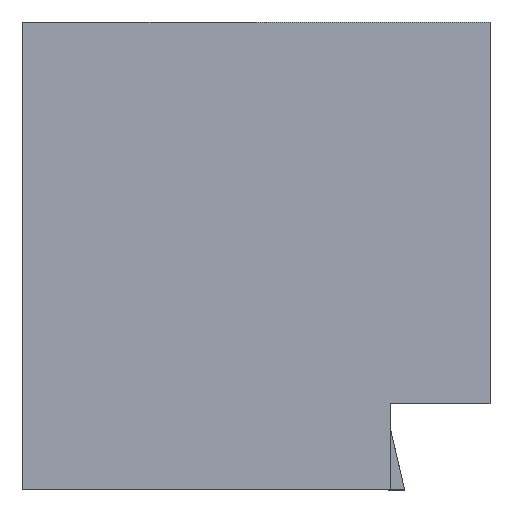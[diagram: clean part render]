
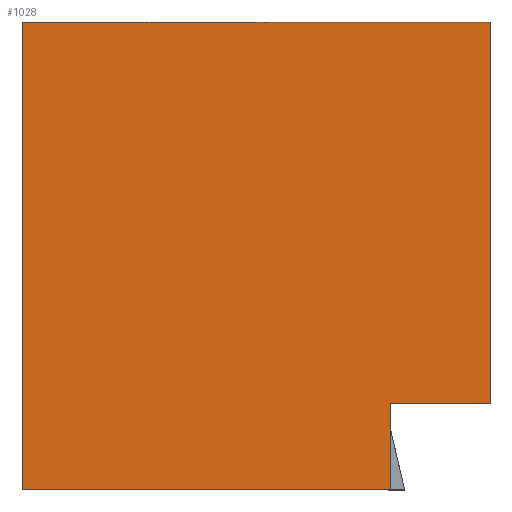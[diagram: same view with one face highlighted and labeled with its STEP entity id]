
A CAD part, front view. The second image highlights one B-rep face of the part: STEP entity #1028.
In plain terms, the highlighted planar face has unit normal (0, -1, 0).
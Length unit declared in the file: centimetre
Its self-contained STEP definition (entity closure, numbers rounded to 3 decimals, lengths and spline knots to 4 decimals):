
#7 = EDGE_CURVE ( 'NONE', #485, #11, #103, .T. ) ;
#11 = VERTEX_POINT ( 'NONE', #539 ) ;
#14 = ORIENTED_EDGE ( 'NONE', *, *, #7, .T. ) ;
#48 = EDGE_CURVE ( 'NONE', #1153, #729, #644, .T. ) ;
#77 = EDGE_CURVE ( 'NONE', #1045, #11, #446, .T. ) ;
#81 = AXIS2_PLACEMENT_3D ( 'NONE', #654, #545, #779 ) ;
#103 = LINE ( 'NONE', #341, #1380 ) ;
#112 = FACE_OUTER_BOUND ( 'NONE', #651, .T. ) ;
#161 = ORIENTED_EDGE ( 'NONE', *, *, #1097, .T. ) ;
#210 = CARTESIAN_POINT ( 'NONE',  ( 1000., 0., 1000. ) ) ;
#231 = CARTESIAN_POINT ( 'NONE',  ( 787.3381, 0., 0. ) ) ;
#245 = DIRECTION ( 'NONE',  ( 0., 0., -1. ) ) ;
#299 = DIRECTION ( 'NONE',  ( -1., 0., 0. ) ) ;
#332 = EDGE_CURVE ( 'NONE', #709, #1153, #1053, .T. ) ;
#334 = DIRECTION ( 'NONE',  ( 1., 0., 0. ) ) ;
#341 = CARTESIAN_POINT ( 'NONE',  ( 0., 0., 0. ) ) ;
#345 = LINE ( 'NONE', #643, #578 ) ;
#432 = ORIENTED_EDGE ( 'NONE', *, *, #332, .F. ) ;
#443 = VECTOR ( 'NONE', #662, 100. ) ;
#446 = LINE ( 'NONE', #231, #443 ) ;
#485 = VERTEX_POINT ( 'NONE', #953 ) ;
#517 = DIRECTION ( 'NONE',  ( 1., 0., 0. ) ) ;
#539 = CARTESIAN_POINT ( 'NONE',  ( 787.3381, 0., 0. ) ) ;
#545 = DIRECTION ( 'NONE',  ( 0., 1., 0. ) ) ;
#557 = CARTESIAN_POINT ( 'NONE',  ( 1000., 0., 184.7516 ) ) ;
#578 = VECTOR ( 'NONE', #245, 100. ) ;
#582 = CARTESIAN_POINT ( 'NONE',  ( 0., 0., 1000. ) ) ;
#630 = CARTESIAN_POINT ( 'NONE',  ( 787.3381, 0., 184.7516 ) ) ;
#643 = CARTESIAN_POINT ( 'NONE',  ( 0., 0., 1000. ) ) ;
#644 = LINE ( 'NONE', #210, #1406 ) ;
#651 = EDGE_LOOP ( 'NONE', ( #14, #932, #1327, #1004, #432, #161 ) ) ;
#654 = CARTESIAN_POINT ( 'NONE',  ( 0., 0., 1000. ) ) ;
#662 = DIRECTION ( 'NONE',  ( 0., 0., -1. ) ) ;
#709 = VERTEX_POINT ( 'NONE', #582 ) ;
#729 = VERTEX_POINT ( 'NONE', #557 ) ;
#772 = CARTESIAN_POINT ( 'NONE',  ( 787.3381, 0., 184.7516 ) ) ;
#779 = DIRECTION ( 'NONE',  ( 0., 0., 1. ) ) ;
#883 = VECTOR ( 'NONE', #517, 100. ) ;
#932 = ORIENTED_EDGE ( 'NONE', *, *, #77, .F. ) ;
#947 = CARTESIAN_POINT ( 'NONE',  ( 0., 0., 1000. ) ) ;
#953 = CARTESIAN_POINT ( 'NONE',  ( 0., 0., 0. ) ) ;
#966 = LINE ( 'NONE', #630, #1206 ) ;
#967 = DIRECTION ( 'NONE',  ( 0., 0., -1. ) ) ;
#1004 = ORIENTED_EDGE ( 'NONE', *, *, #48, .F. ) ;
#1028 = ADVANCED_FACE ( 'NONE', ( #112 ), #1203, .F. ) ;
#1045 = VERTEX_POINT ( 'NONE', #772 ) ;
#1053 = LINE ( 'NONE', #947, #883 ) ;
#1097 = EDGE_CURVE ( 'NONE', #709, #485, #345, .T. ) ;
#1153 = VERTEX_POINT ( 'NONE', #1268 ) ;
#1203 = PLANE ( 'NONE',  #81 ) ;
#1206 = VECTOR ( 'NONE', #299, 100. ) ;
#1268 = CARTESIAN_POINT ( 'NONE',  ( 1000., 0., 1000. ) ) ;
#1327 = ORIENTED_EDGE ( 'NONE', *, *, #1346, .F. ) ;
#1346 = EDGE_CURVE ( 'NONE', #729, #1045, #966, .T. ) ;
#1380 = VECTOR ( 'NONE', #334, 100. ) ;
#1406 = VECTOR ( 'NONE', #967, 100. ) ;
